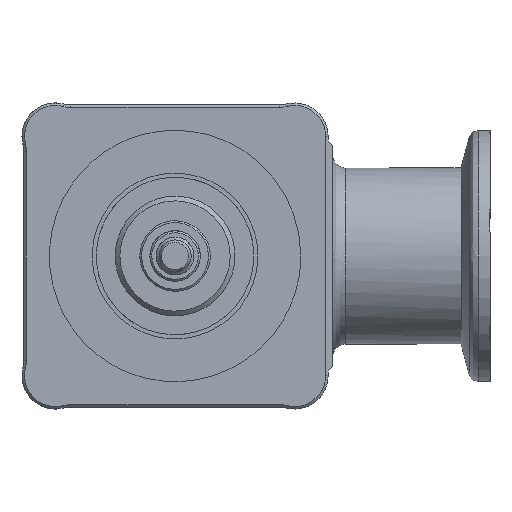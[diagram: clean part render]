
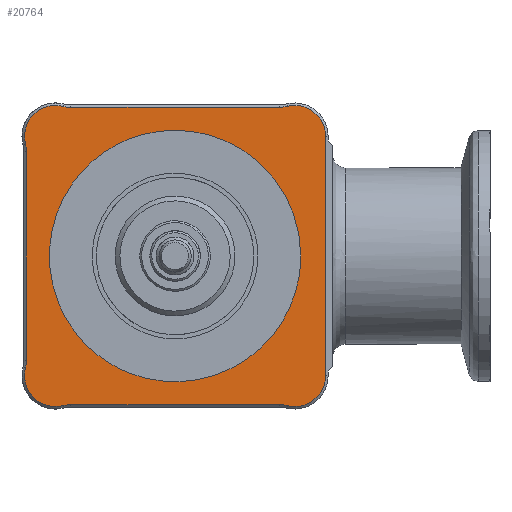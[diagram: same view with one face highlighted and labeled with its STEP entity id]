
A CAD part, front view. The second image highlights one B-rep face of the part: STEP entity #20764.
In plain terms, the highlighted free-form (B-spline) face has degree [1, 1] with [2, 2] control points.
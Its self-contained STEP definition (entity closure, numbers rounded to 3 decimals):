
#16874=CARTESIAN_POINT('V50',(16.,22.0,0.)
   );
#16875=VERTEX_POINT('V50',#16874);
#16889=CARTESIAN_POINT('E83',(16.,22.0,0.)
   );
#16890=CARTESIAN_POINT('E83',(16.,22.0,
   27.713));
#16891=CARTESIAN_POINT('E83',(-8.,22.0,
   13.856));
#16892=CARTESIAN_POINT('E83',(-32.,22.0,
   0.));
#16893=CARTESIAN_POINT('E83',(-8.,22.0,
   -13.856));
#16894=CARTESIAN_POINT('E83',(16.,22.0,
   -27.713));
#16895=CARTESIAN_POINT('E83',(16.,22.0,0.)
   );
#16903=(BOUNDED_CURVE()B_SPLINE_CURVE(2,(#16889,#16890,#16891,
   #16892,#16893,#16894,#16895),.CIRCULAR_ARC.,.T.,.U.)
   B_SPLINE_CURVE_WITH_KNOTS((3,2,2,3),(2.0,12.667,
   23.333,34.),.UNSPECIFIED.)CURVE()
   GEOMETRIC_REPRESENTATION_ITEM()RATIONAL_B_SPLINE_CURVE((1.0,
   0.5,1.0,0.5,1.0,0.5,1.0)
   )REPRESENTATION_ITEM('E83'));
#16904=EDGE_CURVE('E83',#16875,#16875,#16903,.T.);
#20313=CARTESIAN_POINT('V23',(17.826,22.,
   -23.757));
#20314=VERTEX_POINT('V23',#20313);
#20321=CARTESIAN_POINT('V21',(16.532,22.0,
   -23.6));
#20322=VERTEX_POINT('V21',#20321);
#20328=CARTESIAN_POINT('E33',(17.826,22.,
   -23.757));
#20329=CARTESIAN_POINT('E33',(17.189,22.,
   -23.6));
#20330=CARTESIAN_POINT('E33',(16.532,22.,
   -23.6));
#20338=(BOUNDED_CURVE()B_SPLINE_CURVE(2,(#20328,#20329,#20330),
   .CIRCULAR_ARC.,.F.,.U.)B_SPLINE_CURVE_WITH_KNOTS((3,3),(2.0,
   4.31),.UNSPECIFIED.)CURVE()
   GEOMETRIC_REPRESENTATION_ITEM()RATIONAL_B_SPLINE_CURVE((1.0,
   0.993,1.0))REPRESENTATION_ITEM('E33'));
#20339=EDGE_CURVE('E33',#20314,#20322,#20338,.T.);
#20351=CARTESIAN_POINT('V19',(-16.532,22.,
   -23.6));
#20352=VERTEX_POINT('V19',#20351);
#20358=CARTESIAN_POINT('E30',(16.532,22.,
   -23.6));
#20359=CARTESIAN_POINT('E30',(-16.532,22.,
   -23.6));
#20360=B_SPLINE_CURVE_WITH_KNOTS('E30',1,(#20358,#20359),
   .POLYLINE_FORM.,.F.,.U.,(2,2),(2.0,60.45),
   .UNSPECIFIED.);
#20361=EDGE_CURVE('E30',#20322,#20352,#20360,.T.);
#20382=CARTESIAN_POINT('V17',(-17.826,22.,
   -23.757));
#20383=VERTEX_POINT('V17',#20382);
#20389=CARTESIAN_POINT('E27',(-16.532,22.,
   -23.6));
#20390=CARTESIAN_POINT('E27',(-17.189,22.,
   -23.6));
#20391=CARTESIAN_POINT('E27',(-17.826,22.,
   -23.757));
#20399=(BOUNDED_CURVE()B_SPLINE_CURVE(2,(#20389,#20390,#20391),
   .CIRCULAR_ARC.,.F.,.U.)B_SPLINE_CURVE_WITH_KNOTS((3,3),(2.0,
   4.31),.UNSPECIFIED.)CURVE()
   GEOMETRIC_REPRESENTATION_ITEM()RATIONAL_B_SPLINE_CURVE((1.0,
   0.993,1.0))REPRESENTATION_ITEM('E27'));
#20400=EDGE_CURVE('E27',#20352,#20383,#20399,.T.);
#20421=CARTESIAN_POINT('V15',(-23.757,22.0,
   -17.826));
#20422=VERTEX_POINT('V15',#20421);
#20428=CARTESIAN_POINT('E24',(-17.826,22.,
   -23.757));
#20429=CARTESIAN_POINT('E24',(-25.701,22.,
   -25.701));
#20430=CARTESIAN_POINT('E24',(-23.757,22.,
   -17.826));
#20438=(BOUNDED_CURVE()B_SPLINE_CURVE(2,(#20428,#20429,#20430),
   .CIRCULAR_ARC.,.F.,.U.)B_SPLINE_CURVE_WITH_KNOTS((3,3),(2.0,
   19.798),.UNSPECIFIED.)CURVE()
   GEOMETRIC_REPRESENTATION_ITEM()RATIONAL_B_SPLINE_CURVE((1.0,
   0.517,1.0))REPRESENTATION_ITEM('E24'));
#20439=EDGE_CURVE('E24',#20383,#20422,#20438,.T.);
#20460=CARTESIAN_POINT('V13',(-23.6,22.0,
   -16.532));
#20461=VERTEX_POINT('V13',#20460);
#20467=CARTESIAN_POINT('E21',(-23.757,22.,
   -17.826));
#20468=CARTESIAN_POINT('E21',(-23.6,22.,
   -17.189));
#20469=CARTESIAN_POINT('E21',(-23.6,22.,
   -16.532));
#20477=(BOUNDED_CURVE()B_SPLINE_CURVE(2,(#20467,#20468,#20469),
   .CIRCULAR_ARC.,.F.,.U.)B_SPLINE_CURVE_WITH_KNOTS((3,3),(2.0,
   4.31),.UNSPECIFIED.)CURVE()
   GEOMETRIC_REPRESENTATION_ITEM()RATIONAL_B_SPLINE_CURVE((1.0,
   0.993,1.0))REPRESENTATION_ITEM('E21'));
#20478=EDGE_CURVE('E21',#20422,#20461,#20477,.T.);
#20490=CARTESIAN_POINT('V11',(-23.6,22.0,
   16.532));
#20491=VERTEX_POINT('V11',#20490);
#20497=CARTESIAN_POINT('E18',(-23.6,22.0,
   -16.532));
#20498=CARTESIAN_POINT('E18',(-23.6,22.0,
   16.532));
#20499=B_SPLINE_CURVE_WITH_KNOTS('E18',1,(#20497,#20498),
   .POLYLINE_FORM.,.F.,.U.,(2,2),(2.0,60.45),
   .UNSPECIFIED.);
#20500=EDGE_CURVE('E18',#20461,#20491,#20499,.T.);
#20521=CARTESIAN_POINT('V9',(-23.757,22.0,
   17.826));
#20522=VERTEX_POINT('V9',#20521);
#20528=CARTESIAN_POINT('E15',(-23.6,22.0,
   16.532));
#20529=CARTESIAN_POINT('E15',(-23.6,22.,
   17.189));
#20530=CARTESIAN_POINT('E15',(-23.757,22.0,
   17.826));
#20538=(BOUNDED_CURVE()B_SPLINE_CURVE(2,(#20528,#20529,#20530),
   .CIRCULAR_ARC.,.F.,.U.)B_SPLINE_CURVE_WITH_KNOTS((3,3),(2.0,
   4.31),.UNSPECIFIED.)CURVE()
   GEOMETRIC_REPRESENTATION_ITEM()RATIONAL_B_SPLINE_CURVE((1.0,
   0.993,1.0))REPRESENTATION_ITEM('E15'));
#20539=EDGE_CURVE('E15',#20491,#20522,#20538,.T.);
#20560=CARTESIAN_POINT('V7',(-17.826,22.0,
   23.757));
#20561=VERTEX_POINT('V7',#20560);
#20567=CARTESIAN_POINT('E12',(-23.757,22.,
   17.826));
#20568=CARTESIAN_POINT('E12',(-25.701,22.,
   25.701));
#20569=CARTESIAN_POINT('E12',(-17.826,22.0,
   23.757));
#20577=(BOUNDED_CURVE()B_SPLINE_CURVE(2,(#20567,#20568,#20569),
   .CIRCULAR_ARC.,.F.,.U.)B_SPLINE_CURVE_WITH_KNOTS((3,3),(2.0,
   19.798),.UNSPECIFIED.)CURVE()
   GEOMETRIC_REPRESENTATION_ITEM()RATIONAL_B_SPLINE_CURVE((1.0,
   0.517,1.0))REPRESENTATION_ITEM('E12'));
#20578=EDGE_CURVE('E12',#20522,#20561,#20577,.T.);
#20599=CARTESIAN_POINT('V5',(-16.532,22.,
   23.6));
#20600=VERTEX_POINT('V5',#20599);
#20606=CARTESIAN_POINT('E9',(-17.826,22.,
   23.757));
#20607=CARTESIAN_POINT('E9',(-17.189,22.,
   23.6));
#20608=CARTESIAN_POINT('E9',(-16.532,22.,
   23.6));
#20616=(BOUNDED_CURVE()B_SPLINE_CURVE(2,(#20606,#20607,#20608),
   .CIRCULAR_ARC.,.F.,.U.)B_SPLINE_CURVE_WITH_KNOTS((3,3),(2.0,
   4.31),.UNSPECIFIED.)CURVE()
   GEOMETRIC_REPRESENTATION_ITEM()RATIONAL_B_SPLINE_CURVE((1.0,
   0.993,1.0))REPRESENTATION_ITEM('E9'));
#20617=EDGE_CURVE('E9',#20561,#20600,#20616,.T.);
#20629=CARTESIAN_POINT('V1',(16.532,22.0,
   23.6));
#20630=VERTEX_POINT('V1',#20629);
#20636=CARTESIAN_POINT('E6',(-16.532,22.0,
   23.6));
#20637=CARTESIAN_POINT('E6',(16.532,22.0,
   23.6));
#20638=B_SPLINE_CURVE_WITH_KNOTS('E6',1,(#20636,#20637),
   .POLYLINE_FORM.,.F.,.U.,(2,2),(2.0,60.45),
   .UNSPECIFIED.);
#20639=EDGE_CURVE('E6',#20600,#20630,#20638,.T.);
#20660=CARTESIAN_POINT('V3',(17.826,22.0,
   23.757));
#20661=VERTEX_POINT('V3',#20660);
#20667=CARTESIAN_POINT('E2',(16.532,22.,
   23.6));
#20668=CARTESIAN_POINT('E2',(17.189,22.,
   23.6));
#20669=CARTESIAN_POINT('E2',(17.826,22.,
   23.757));
#20677=(BOUNDED_CURVE()B_SPLINE_CURVE(2,(#20667,#20668,#20669),
   .CIRCULAR_ARC.,.F.,.U.)B_SPLINE_CURVE_WITH_KNOTS((3,3),(2.0,
   4.31),.UNSPECIFIED.)CURVE()
   GEOMETRIC_REPRESENTATION_ITEM()RATIONAL_B_SPLINE_CURVE((1.0,
   0.993,1.0))REPRESENTATION_ITEM('E2'));
#20678=EDGE_CURVE('E2',#20630,#20661,#20677,.T.);
#20699=CARTESIAN_POINT('V104',(23.9,22.0,
   19.));
#20700=VERTEX_POINT('V104',#20699);
#20706=CARTESIAN_POINT('E173',(17.826,22.0,
   23.757));
#20707=CARTESIAN_POINT('E173',(23.9,22.,
   25.256));
#20708=CARTESIAN_POINT('E173',(23.9,22.0,
   19.));
#20716=(BOUNDED_CURVE()B_SPLINE_CURVE(2,(#20706,#20707,#20708),
   .CIRCULAR_ARC.,.F.,.U.)B_SPLINE_CURVE_WITH_KNOTS((3,3),(2.0,
   17.702),.UNSPECIFIED.)CURVE()
   GEOMETRIC_REPRESENTATION_ITEM()RATIONAL_B_SPLINE_CURVE((1.0,
   0.617,1.0))REPRESENTATION_ITEM('E173'));
#20717=EDGE_CURVE('E173',#20661,#20700,#20716,.T.);
#20722=CARTESIAN_POINT('F91',(-25.3,22.0,
   -25.3));
#20723=CARTESIAN_POINT('F91',(-25.3,22.0,
   25.3));
#20724=CARTESIAN_POINT('F91',(26.,22.0,
   -25.3));
#20725=CARTESIAN_POINT('F91',(26.,22.0,
   25.3));
#20726=B_SPLINE_SURFACE_WITH_KNOTS('F91',1,1,((#20722,#20724),(
   #20723,#20725)),.PLANE_SURF.,.F.,.F.,.U.,(2,2),(2,2),(
   0.291,0.709),(0.291,
   0.715),.UNSPECIFIED.);
#20727=CARTESIAN_POINT('V106',(23.9,22.0,
   -19.));
#20728=VERTEX_POINT('V106',#20727);
#20729=CARTESIAN_POINT('E202',(23.9,22.0,19.0));
#20730=CARTESIAN_POINT('E202',(23.9,22.0,
   -19.));
#20731=QUASI_UNIFORM_CURVE('E202',1,(#20729,#20730),.POLYLINE_FORM.,
   .F.,.U.);
#20732=EDGE_CURVE('E202',#20700,#20728,#20731,.T.);
#20733=ORIENTED_EDGE('E202',*,*,#20732,.T.);
#20734=CARTESIAN_POINT('E177',(23.9,22.,
   -19.));
#20735=CARTESIAN_POINT('E177',(23.9,22.0,
   -25.256));
#20736=CARTESIAN_POINT('E177',(17.826,22.0,
   -23.757));
#20744=(BOUNDED_CURVE()B_SPLINE_CURVE(2,(#20734,#20735,#20736),
   .CIRCULAR_ARC.,.F.,.U.)B_SPLINE_CURVE_WITH_KNOTS((3,3),(2.0,
   17.702),.UNSPECIFIED.)CURVE()
   GEOMETRIC_REPRESENTATION_ITEM()RATIONAL_B_SPLINE_CURVE((1.0,
   0.617,1.0))REPRESENTATION_ITEM('E177'));
#20745=EDGE_CURVE('E177',#20728,#20314,#20744,.T.);
#20746=ORIENTED_EDGE('E177',*,*,#20745,.T.);
#20747=ORIENTED_EDGE('F11',*,*,#20339,.T.);
#20748=ORIENTED_EDGE('F10',*,*,#20361,.T.);
#20749=ORIENTED_EDGE('F9',*,*,#20400,.T.);
#20750=ORIENTED_EDGE('F8',*,*,#20439,.T.);
#20751=ORIENTED_EDGE('F7',*,*,#20478,.T.);
#20752=ORIENTED_EDGE('F6',*,*,#20500,.T.);
#20753=ORIENTED_EDGE('F5',*,*,#20539,.T.);
#20754=ORIENTED_EDGE('F4',*,*,#20578,.T.);
#20755=ORIENTED_EDGE('F3',*,*,#20617,.T.);
#20756=ORIENTED_EDGE('F2',*,*,#20639,.T.);
#20757=ORIENTED_EDGE('F1',*,*,#20678,.T.);
#20758=ORIENTED_EDGE('F80',*,*,#20717,.T.);
#20759=EDGE_LOOP('F91',(#20733,#20746,#20747,#20748,#20749,#20750,
   #20751,#20752,#20753,#20754,#20755,#20756,#20757,#20758));
#20760=FACE_OUTER_BOUND('F91',#20759,.F.);
#20761=ORIENTED_EDGE('E83',*,*,#16904,.T.);
#20762=EDGE_LOOP('F91',(#20761));
#20763=FACE_BOUND('F91',#20762,.F.);
#20764=ADVANCED_FACE('F91',(#20760,#20763),#20726,.F.);
